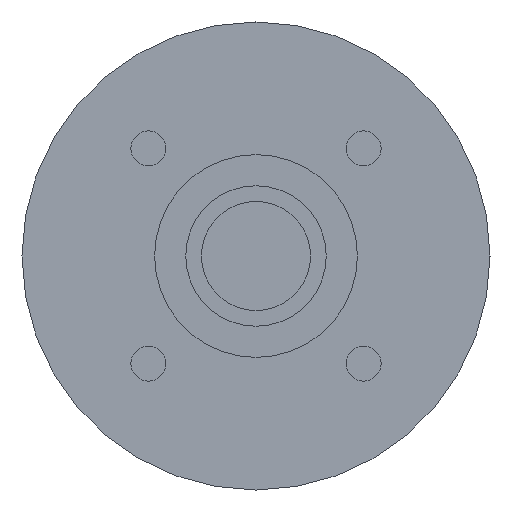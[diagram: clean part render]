
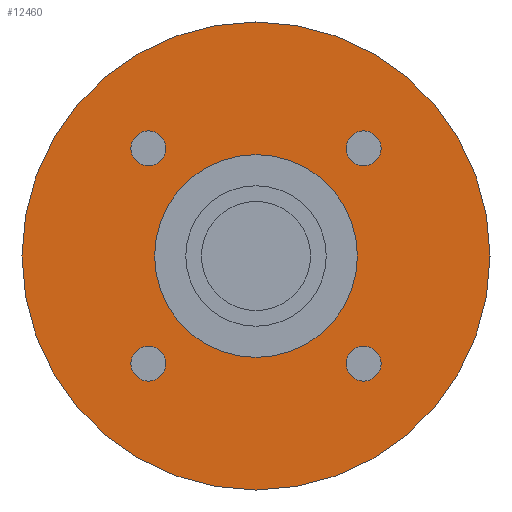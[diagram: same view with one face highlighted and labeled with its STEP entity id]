
A CAD part, left-side view. The second image highlights one B-rep face of the part: STEP entity #12460.
In plain terms, the highlighted planar face has unit normal (-1, 0, 0) as drawn and (0, 0, -1) by its records, which use the part's own axes.
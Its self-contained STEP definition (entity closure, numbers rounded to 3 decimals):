
#8700=CARTESIAN_POINT('',(-30.,0.,-35.));
#8710=VERTEX_POINT('',#8700);
#8910=CARTESIAN_POINT('',(30.,0.,-35.));
#8920=VERTEX_POINT('',#8910);
#8950=CARTESIAN_POINT('',(0.,0.,-35.
));
#8960=DIRECTION('',(0.,0.,1.));
#8970=DIRECTION('',(1.,0.,0.));
#8980=AXIS2_PLACEMENT_3D('',#8950,#8960,#8970);
#8990=CIRCLE('',#8980,30.);
#9000=CARTESIAN_POINT('',(0.,-30.,-35.));
#9010=VERTEX_POINT('',#9000);
#9020=EDGE_CURVE('',#9010,#8920,#8990,.T.);
#9040=EDGE_CURVE('',#8710,#9010,#8990,.T.);
#11280=CARTESIAN_POINT('',(0.,0.,
-35.));
#11290=DIRECTION('',(0.,0.,1.));
#11300=DIRECTION('',(0.,1.,0.));
#11310=AXIS2_PLACEMENT_3D('',#11280,#11290,#11300);
#11320=CIRCLE('',#11310,13.);
#11330=CARTESIAN_POINT('',(0.,13.,-35.));
#11340=VERTEX_POINT('',#11330);
#11350=CARTESIAN_POINT('',(-13.,0.,-35.));
#11360=VERTEX_POINT('',#11350);
#11370=EDGE_CURVE('',#11340,#11360,#11320,.T.);
#11600=CARTESIAN_POINT('',(13.,0.,-35.));
#11610=VERTEX_POINT('',#11600);
#11640=EDGE_CURVE('',#11610,#11340,#11320,.T.);
#11690=CARTESIAN_POINT('',(0.,0.,
-35.));
#11700=DIRECTION('',(0.,0.,-1.));
#11710=DIRECTION('',(1.,0.,0.));
#11720=AXIS2_PLACEMENT_3D('',#11690,#11700,#11710);
#11730=PLANE('',#11720);
#11740=CARTESIAN_POINT('',(13.789,13.789,-35.));
#11750=DIRECTION('',(0.,0.,-1.));
#11760=DIRECTION('',(0.,1.,0.));
#11770=AXIS2_PLACEMENT_3D('',#11740,#11750,#11760);
#11780=CIRCLE('',#11770,2.25);
#11790=CARTESIAN_POINT('',(13.789,16.039,-35.));
#11800=VERTEX_POINT('',#11790);
#11810=CARTESIAN_POINT('',(13.789,11.539,-35.));
#11820=VERTEX_POINT('',#11810);
#11830=EDGE_CURVE('',#11800,#11820,#11780,.T.);
#11840=ORIENTED_EDGE('',*,*,#11830,.F.);
#11850=EDGE_CURVE('',#11820,#11800,#11780,.T.);
#11860=ORIENTED_EDGE('',*,*,#11850,.F.);
#11870=EDGE_LOOP('',(#11860,#11840));
#11880=FACE_BOUND('',#11870,.T.);
#11890=CARTESIAN_POINT('',(-13.789,13.789,-35.));
#11900=DIRECTION('',(0.,0.,-1.));
#11910=DIRECTION('',(-1.,0.,0.));
#11920=AXIS2_PLACEMENT_3D('',#11890,#11900,#11910);
#11930=CIRCLE('',#11920,2.25);
#11940=CARTESIAN_POINT('',(-16.039,13.789,-35.));
#11950=VERTEX_POINT('',#11940);
#11960=CARTESIAN_POINT('',(-11.539,13.789,-35.));
#11970=VERTEX_POINT('',#11960);
#11980=EDGE_CURVE('',#11950,#11970,#11930,.T.);
#11990=ORIENTED_EDGE('',*,*,#11980,.F.);
#12000=EDGE_CURVE('',#11970,#11950,#11930,.T.);
#12010=ORIENTED_EDGE('',*,*,#12000,.F.);
#12020=EDGE_LOOP('',(#12010,#11990));
#12030=FACE_BOUND('',#12020,.T.);
#12040=CARTESIAN_POINT('',(-13.789,-13.789,-35.));
#12050=DIRECTION('',(0.,0.,-1.));
#12060=DIRECTION('',(0.,-1.,0.));
#12070=AXIS2_PLACEMENT_3D('',#12040,#12050,#12060);
#12080=CIRCLE('',#12070,2.25);
#12090=CARTESIAN_POINT('',(-13.789,-16.039,-35.));
#12100=VERTEX_POINT('',#12090);
#12110=CARTESIAN_POINT('',(-13.789,-11.539,-35.));
#12120=VERTEX_POINT('',#12110);
#12130=EDGE_CURVE('',#12100,#12120,#12080,.T.);
#12140=ORIENTED_EDGE('',*,*,#12130,.F.);
#12150=EDGE_CURVE('',#12120,#12100,#12080,.T.);
#12160=ORIENTED_EDGE('',*,*,#12150,.F.);
#12170=EDGE_LOOP('',(#12160,#12140));
#12180=FACE_BOUND('',#12170,.T.);
#12190=EDGE_CURVE('',#11360,#11610,#11320,.T.);
#12200=ORIENTED_EDGE('',*,*,#12190,.T.);
#12210=ORIENTED_EDGE('',*,*,#11370,.T.);
#12220=ORIENTED_EDGE('',*,*,#11640,.T.);
#12230=EDGE_LOOP('',(#12220,#12210,#12200));
#12240=FACE_BOUND('',#12230,.T.);
#12250=CARTESIAN_POINT('',(13.789,-13.789,-35.));
#12260=DIRECTION('',(0.,0.,-1.));
#12270=DIRECTION('',(1.,0.,0.));
#12280=AXIS2_PLACEMENT_3D('',#12250,#12260,#12270);
#12290=CIRCLE('',#12280,2.25);
#12300=CARTESIAN_POINT('',(16.039,-13.789,-35.));
#12310=VERTEX_POINT('',#12300);
#12320=CARTESIAN_POINT('',(11.539,-13.789,-35.));
#12330=VERTEX_POINT('',#12320);
#12340=EDGE_CURVE('',#12310,#12330,#12290,.T.);
#12350=ORIENTED_EDGE('',*,*,#12340,.F.);
#12360=EDGE_CURVE('',#12330,#12310,#12290,.T.);
#12370=ORIENTED_EDGE('',*,*,#12360,.F.);
#12380=EDGE_LOOP('',(#12370,#12350));
#12390=FACE_BOUND('',#12380,.T.);
#12400=ORIENTED_EDGE('',*,*,#9020,.F.);
#12410=EDGE_CURVE('',#8920,#8710,#8990,.T.);
#12420=ORIENTED_EDGE('',*,*,#12410,.F.);
#12430=ORIENTED_EDGE('',*,*,#9040,.F.);
#12440=EDGE_LOOP('',(#12430,#12420,#12400));
#12450=FACE_OUTER_BOUND('',#12440,.T.);
#12460=ADVANCED_FACE('',(#11880,#12030,#12180,#12240,#12390,#12450),
#11730,.T.);
